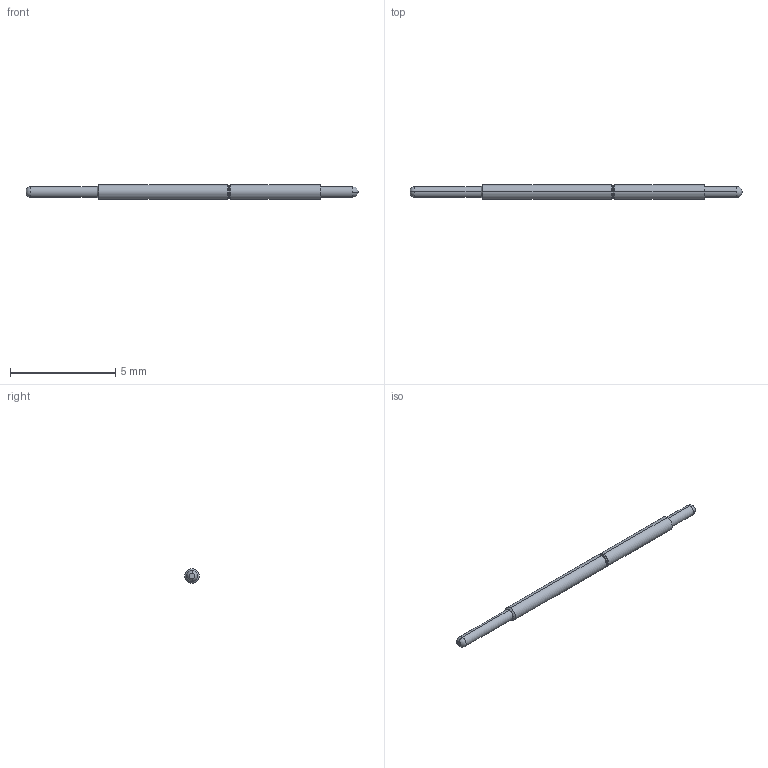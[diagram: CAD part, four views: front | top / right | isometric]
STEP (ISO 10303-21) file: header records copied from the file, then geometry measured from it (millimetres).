
FILE_DESCRIPTION (( 'STEP AP203' ), '1' );
FILE_NAME ('100187-008-948 (REST).STEP', '2022-12-28T04:17:47', ( '' ), ( '' ), 'SwSTEP 2.0', 'SolidWorks 2022', '' );
FILE_SCHEMA (( 'CONFIG_CONTROL_DESIGN' ));
Length unit declared in the file: inch
Products named in the file (1): 100187-008-948 (REST)
Bounding box: 15.75 x 0.69 x 0.69 mm (x, y, z)
Volume: 5 mm3; surface area: 31.5 mm2
Topology: 1 solids, 1 shells, 25 faces, 52 edges, 28 vertices
Faces by surface type: torus 10, cylinder 8, plane 3, sphere 2, cone 2
Entity records: 735 total; most frequent: DIRECTION 142, CARTESIAN_POINT 104, ORIENTED_EDGE 100, AXIS2_PLACEMENT_3D 66, EDGE_CURVE 50, CIRCLE 40, VERTEX_POINT 28, EDGE_LOOP 26
